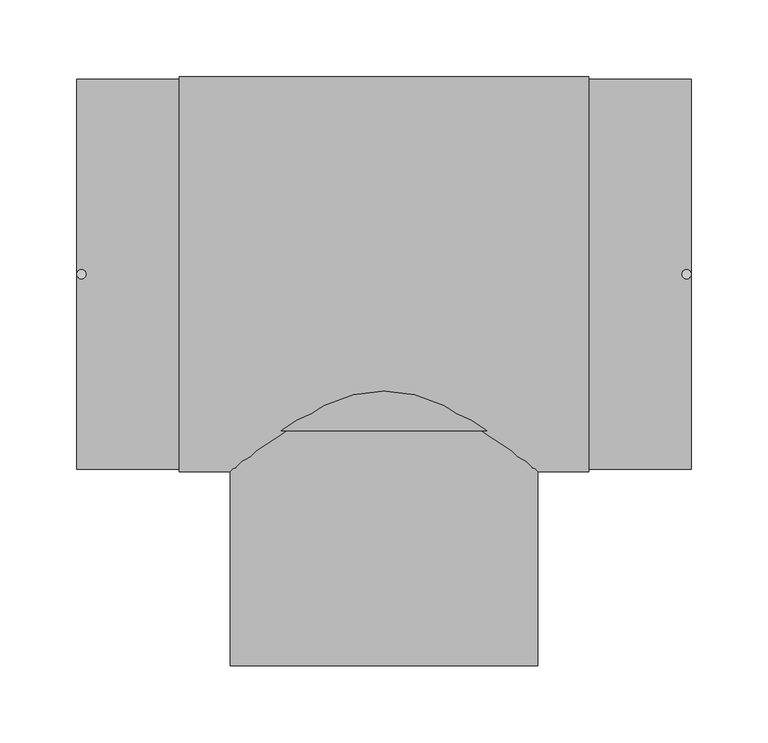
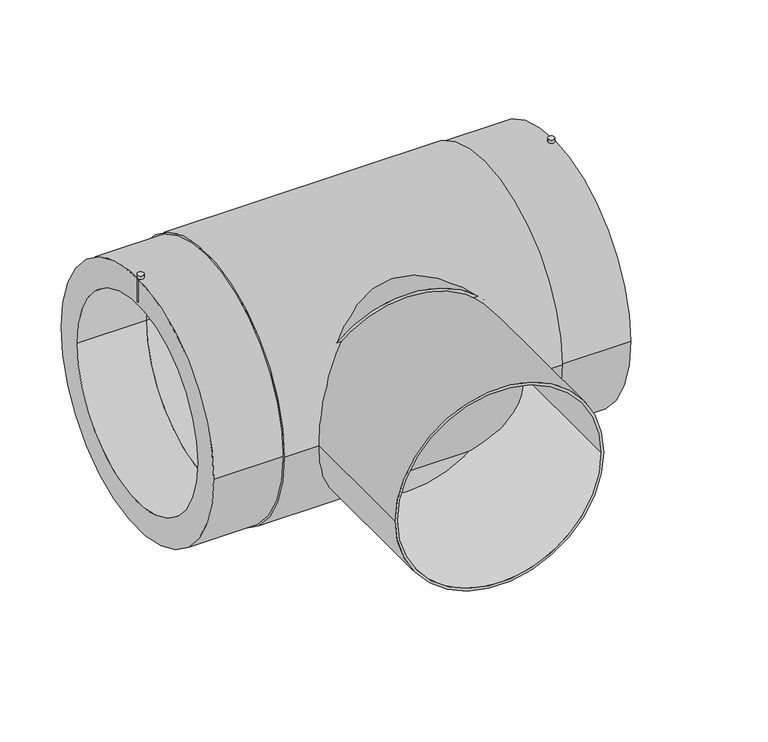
"""IFC4 building model written with IfcOpenShell, lengths in millimetres: pipe fitting geometry, EGB_VASEN_ PPR_Te electrosoldable WXRD300_Te reducida electrosoldable WXRD310 : Te electrosoldable."""

from ifc_helpers import new_model, si_unit, point, frame, frame_2d, origin, origin_2d, place, context, project, spatial, circle_curve, trimmed, segment, composite_curve, outline, extrude, source, transform, mapped, element, save


def pipe_fitting_fe1d0d71(model_context):
    return source(origin(), model_context, "Body", "SweptSolid", [
        extrude(outline(composite_curve([segment(trimmed(circle_curve(frame_2d((-197.0, 0.0)), 3.0), [point((-200.0, 0.0))], [point((-194.0, 0.0))], False, "CARTESIAN"), True, "CONTINUOUS"), segment(trimmed(circle_curve(frame_2d((-197.0, 0.0)), 3.0), [point((-194.0, 0.0))], [point((-200.0, 0.0))], False, "CARTESIAN"), True, "CONTINUOUS")], self_intersect=False)), frame((0.0, 0.0, 103.0), z_axis=(0.0, 0.0, 1.0), x_axis=(1.0, 0.0, 0.0)), (0.0, 0.0, 1.0), 27.0),
        extrude(outline(composite_curve([segment(trimmed(circle_curve(frame_2d((197.0, 0.0)), 3.0), [point((194.0, 0.0))], [point((200.0, 0.0))], False, "CARTESIAN"), True, "CONTINUOUS"), segment(trimmed(circle_curve(frame_2d((197.0, 0.0)), 3.0), [point((200.0, 0.0))], [point((194.0, 0.0))], False, "CARTESIAN"), True, "CONTINUOUS")], self_intersect=False)), frame((0.0, 0.0, 103.0), z_axis=(0.0, 0.0, 1.0), x_axis=(1.0, 0.0, 0.0)), (0.0, 0.0, 1.0), 27.0),
        extrude(outline(composite_curve([segment(trimmed(circle_curve(origin_2d(), 102.5), [point((0.0, 102.5))], [point((0.0, -102.5))], False, "CARTESIAN"), True, "CONTINUOUS"), segment(trimmed(circle_curve(origin_2d(), 102.5), [point((0.0, -102.5))], [point((0.0, 102.5))], False, "CARTESIAN"), True, "CONTINUOUS")], self_intersect=False)), frame((0.0, -102.0, 0.0), z_axis=(0.0, 1.0, 0.0), x_axis=(0.0, 0.0, 1.0)), (0.0, 0.0, 1.0), 102.0),
        extrude(outline(composite_curve([segment(trimmed(circle_curve(origin_2d(), 100.0), [point((0.0, -100.0))], [point((0.0, 100.0))], False, "CARTESIAN"), True, "CONTINUOUS"), segment(trimmed(circle_curve(origin_2d(), 100.0), [point((0.0, 100.0))], [point((0.0, -100.0))], False, "CARTESIAN"), True, "CONTINUOUS")], self_intersect=False), holes=[composite_curve([segment(trimmed(circle_curve(origin_2d(), 97.5), [point((0.0, -97.5))], [point((0.0, 97.5))], True, "CARTESIAN"), True, "CONTINUOUS"), segment(trimmed(circle_curve(origin_2d(), 97.5), [point((0.0, 97.5))], [point((0.0, -97.5))], True, "CARTESIAN"), True, "CONTINUOUS")], self_intersect=False)]), frame((0.0, -255.0, 0.0), z_axis=(0.0, 1.0, 0.0), x_axis=(0.0, 0.0, 1.0)), (0.0, 0.0, 1.0), 153.0),
        extrude(outline(composite_curve([segment(trimmed(circle_curve(origin_2d(), 128.5), [point((-128.5, 0.0))], [point((128.5, 0.0))], False, "CARTESIAN"), True, "CONTINUOUS"), segment(trimmed(circle_curve(origin_2d(), 128.5), [point((128.5, 0.0))], [point((-128.5, 0.0))], False, "CARTESIAN"), True, "CONTINUOUS")], self_intersect=False), holes=[composite_curve([segment(trimmed(circle_curve(origin_2d(), 100.0), [point((-100.0, 0.0))], [point((100.0, 0.0))], True, "CARTESIAN"), True, "CONTINUOUS"), segment(trimmed(circle_curve(origin_2d(), 100.0), [point((100.0, 0.0))], [point((-100.0, 0.0))], True, "CARTESIAN"), True, "CONTINUOUS")], self_intersect=False)]), frame((-133.3333333, 0.0, 0.0), z_axis=(1.0, 0.0, 0.0), x_axis=(0.0, 1.0, 0.0)), (0.0, 0.0, 1.0), 266.6666667),
        extrude(outline(composite_curve([segment(trimmed(circle_curve(origin_2d(), 127.0), [point((-127.0, 0.0))], [point((127.0, 0.0))], False, "CARTESIAN"), True, "CONTINUOUS"), segment(trimmed(circle_curve(origin_2d(), 127.0), [point((127.0, 0.0))], [point((-127.0, 0.0))], False, "CARTESIAN"), True, "CONTINUOUS")], self_intersect=False), holes=[composite_curve([segment(trimmed(circle_curve(origin_2d(), 100.0), [point((-100.0, 0.0))], [point((100.0, 0.0))], True, "CARTESIAN"), True, "CONTINUOUS"), segment(trimmed(circle_curve(origin_2d(), 100.0), [point((100.0, 0.0))], [point((-100.0, 0.0))], True, "CARTESIAN"), True, "CONTINUOUS")], self_intersect=False)]), frame((-200.0, 0.0, 0.0), z_axis=(1.0, 0.0, 0.0), x_axis=(0.0, 1.0, 0.0)), (0.0, 0.0, 1.0), 400.0),
    ])


if __name__ == "__main__":
    model = new_model("IFC4")
    model_context = context("Model", 3, world=origin())
    ifc_project = project(units=[si_unit("LENGTHUNIT", "METRE", prefix="MILLI")], contexts=[model_context])
    site = spatial("IfcSite", under=ifc_project)
    building = spatial("IfcBuilding", under=site)
    placement = place(None, origin())
    pipe_fitting_shape = pipe_fitting_fe1d0d71(model_context)
    element("IfcPipeFitting", 1, ObjectType="EGB_VASEN_ PPR_Te electrosoldable WXRD300_Te reducida electrosoldable WXRD310 : Te electrosoldable", at=placement, inside=building, context=model_context, shape_type="MappedRepresentation", body=[
        mapped(pipe_fitting_shape, transform((0.0, 0.0, 0.0), x_axis=(1.0, 0.0, 0.0), y_axis=(0.0, 1.0, 0.0), z_axis=(0.0, 0.0, 1.0))),
    ])
    save(model, "model.ifc")
